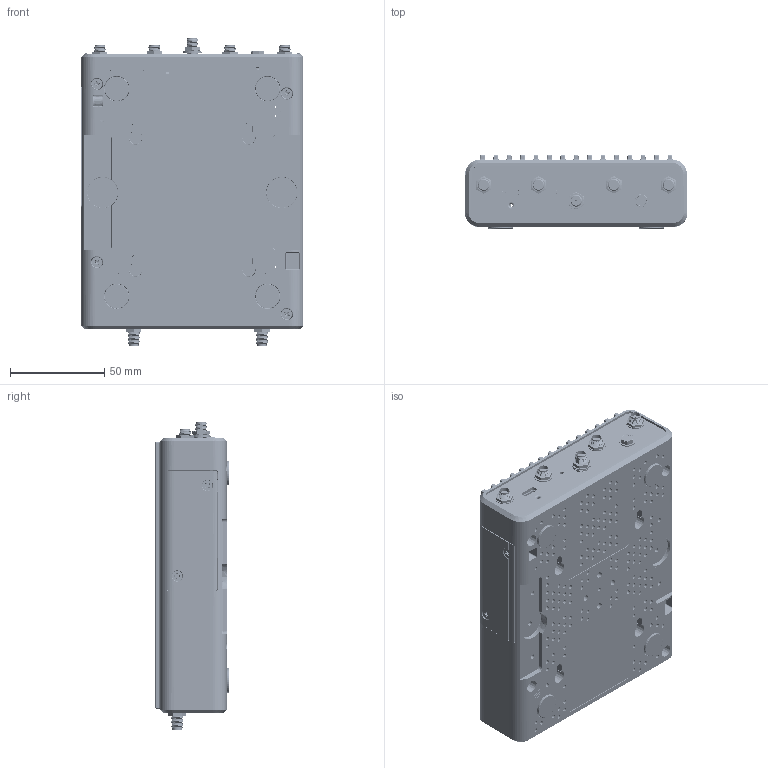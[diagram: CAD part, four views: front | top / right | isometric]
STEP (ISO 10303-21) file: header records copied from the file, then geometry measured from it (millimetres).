
FILE_DESCRIPTION(('Open CASCADE Model'),'2;1');
FILE_NAME('Open CASCADE Shape Model','2026-04-02T11:19:21',('Author'),( 'Open CASCADE'),'Open CASCADE STEP processor 7.5','Open CASCADE 7.5' ,'Unknown');
FILE_SCHEMA(('AUTOMOTIVE_DESIGN { 1 0 10303 214 1 1 1 1 }'));
Length unit declared in the file: millimetre
Products named in the file (2): Open CASCADE STEP translator 7.5 869; Open CASCADE STEP translator 7.5 870
Bounding box: 118.2 x 39 x 163.6 mm (x, y, z)
Volume: 163451.5 mm3; surface area: 181429.3 mm2
Topology: 211 solids, 219 shells, 16911 faces, 45480 edges, 29012 vertices
Faces by surface type: plane 9898, cylinder 3863, bspline 1802, cone 956, sphere 225, torus 167
Entity records: 683030 total; most frequent: CARTESIAN_POINT 277273, ORIENTED_EDGE 90454, DIRECTION 74313, EDGE_CURVE 45227, LINE 29985, VECTOR 29985, VERTEX_POINT 29012, AXIS2_PLACEMENT_3D 22164
